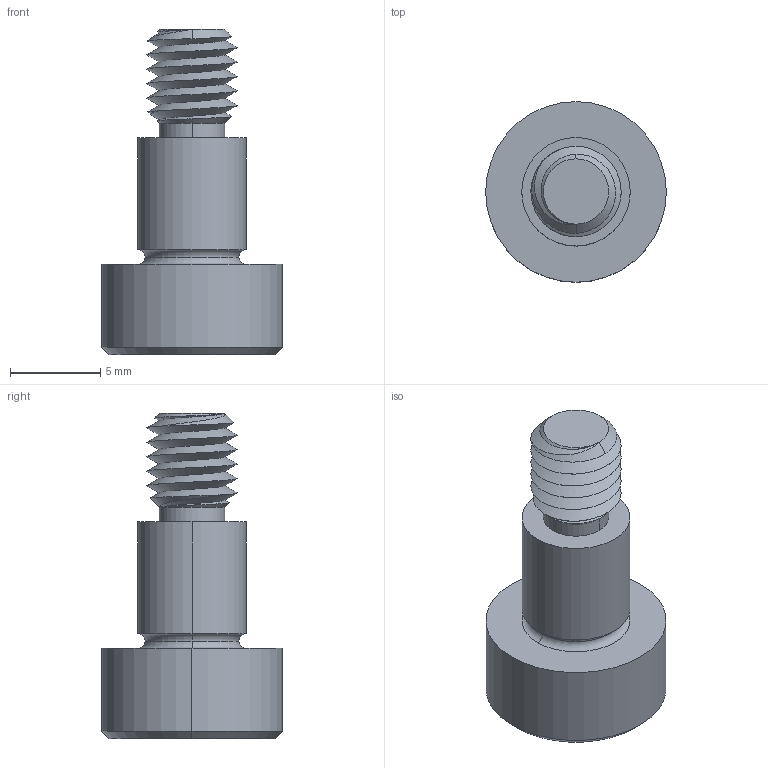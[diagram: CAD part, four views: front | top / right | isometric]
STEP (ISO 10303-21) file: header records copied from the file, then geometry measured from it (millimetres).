
FILE_DESCRIPTION (( 'STEP AP203' ), '1' );
FILE_NAME ('P0130.060-007-B2.step', '2021-11-09T21:22:14', ( '' ), ( '' ), 'SwSTEP 2.0', 'SolidWorks 2019', '' );
FILE_SCHEMA (( 'CONFIG_CONTROL_DESIGN' ));
Length unit declared in the file: millimetre
Products named in the file (1): P0130.060-007-B2
Bounding box: 10 x 10 x 18 mm (x, y, z)
Volume: 641.2 mm3; surface area: 619.5 mm2
Topology: 1 solids, 1 shells, 53 faces, 121 edges, 71 vertices
Faces by surface type: cylinder 17, plane 16, cone 14, torus 4, bspline 2
Entity records: 2367 total; most frequent: CARTESIAN_POINT 1186, ORIENTED_EDGE 238, DIRECTION 226, EDGE_CURVE 119, AXIS2_PLACEMENT_3D 92, VERTEX_POINT 71, EDGE_LOOP 56, FACE_OUTER_BOUND 53
